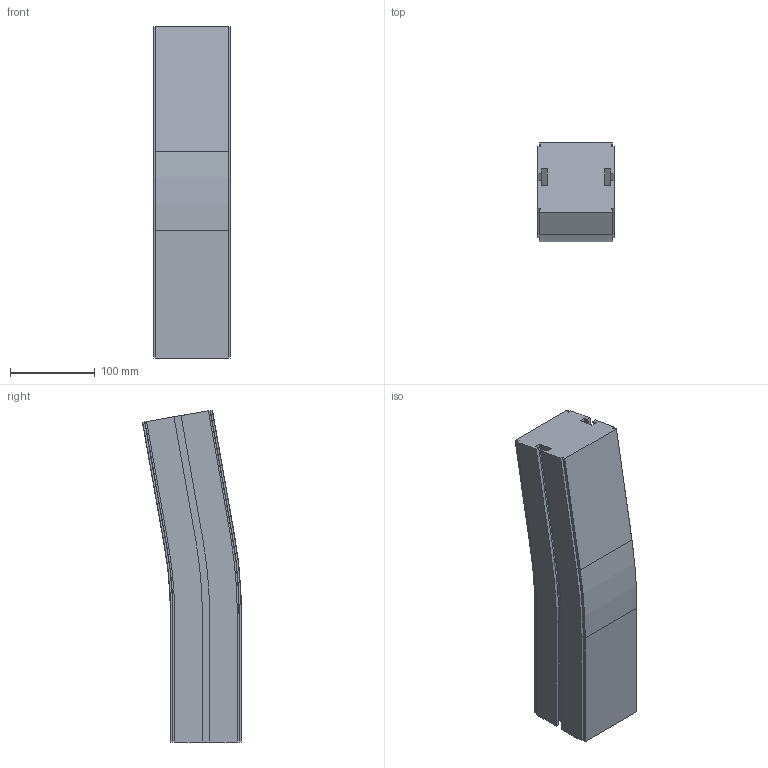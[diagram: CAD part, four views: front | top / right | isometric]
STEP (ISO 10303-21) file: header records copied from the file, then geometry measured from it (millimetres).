
FILE_DESCRIPTION (( 'STEP AP214' ), '1' );
FILE_NAME ('927759 CS090SL Verticale bochtsectie R500 10°.STEP', '2014-03-20T15:02:51', ( 'Beheerder' ), ( '' ), 'SwSTEP 2.0', 'SolidWorks 2012', '' );
FILE_SCHEMA (( 'AUTOMOTIVE_DESIGN' ));
Length unit declared in the file: millimetre
Products named in the file (1): 927759 CS090SL Verticale bochtsectie R500 10°
Bounding box: 90 x 117.01 x 391.84 mm (x, y, z)
Volume: 2770748.3 mm3; surface area: 190112.7 mm2
Topology: 1 solids, 1 shells, 98 faces, 272 edges, 176 vertices
Faces by surface type: plane 72, cylinder 18, cone 8
Entity records: 3126 total; most frequent: CARTESIAN_POINT 547, ORIENTED_EDGE 544, DIRECTION 514, EDGE_CURVE 272, LINE 228, VECTOR 228, VERTEX_POINT 176, AXIS2_PLACEMENT_3D 143
